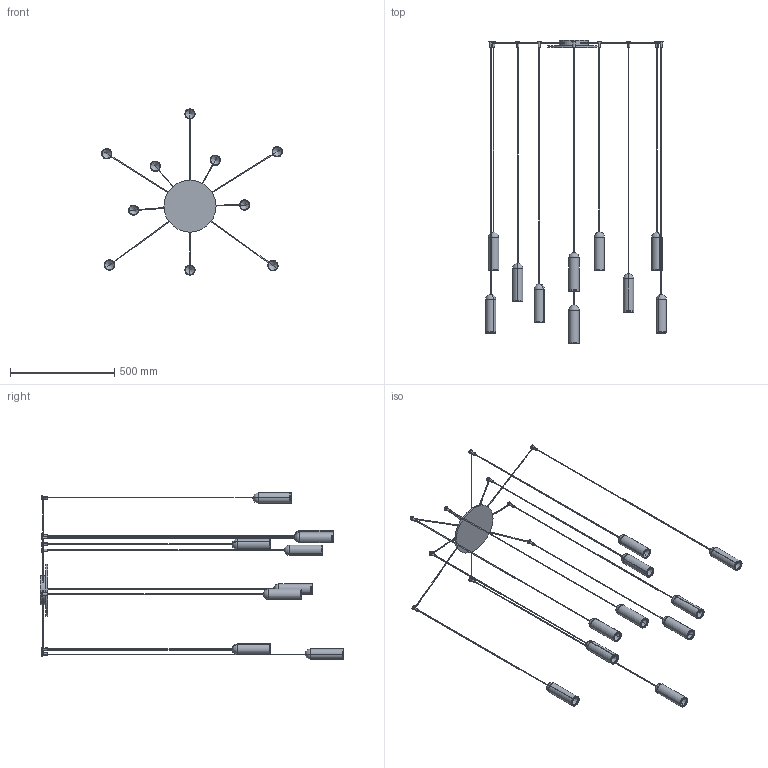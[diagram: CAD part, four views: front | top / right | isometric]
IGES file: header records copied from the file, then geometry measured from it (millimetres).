
Start section: SolidWorks IGES file using analytic representation for surfaces
Global section: file name: Y:\eforma\TECNICO\SOLIDWORKS\E-FORMA\09-LAMPADE\NANUM\02 parts\NAN10-00-NANUM_10 sospensione.IGS; native system: SolidWorks 2022; preprocessor: SolidWorks 2022; author: eforma.tech; date: 250505.163928; units: millimetre
Bounding box: 868.47 x 1454.5 x 799 mm (x, y, z)
Volume: 1762087.6 mm3; surface area: 910486.9 mm2
Topology: 31 solids, 31 shells, 394 faces, 768 edges, 437 vertices
Faces by surface type: revolution 311, plane 83
